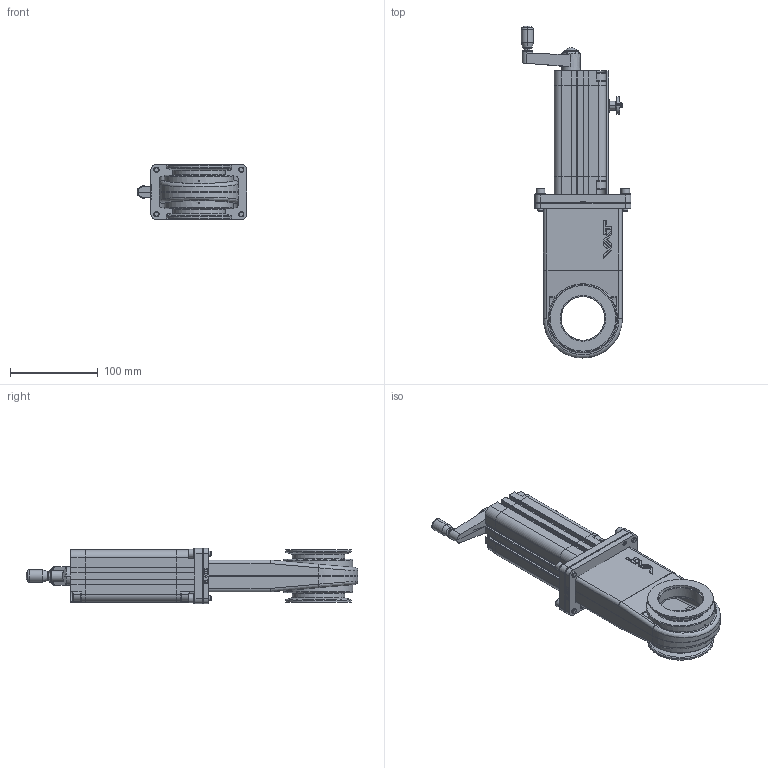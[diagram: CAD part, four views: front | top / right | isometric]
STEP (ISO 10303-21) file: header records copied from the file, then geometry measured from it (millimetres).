
FILE_DESCRIPTION(/* description */ (''),/* implementation_level */ '2;1');
FILE_NAME(/* name */ '1192294207_203.stp',/* time_stamp */ '2013-09-10T11:48:16+02:00',/* author */ (''),/* organization */ (''),/* preprocessor_version */ 'ST-DEVELOPER v11',/* originating_system */ 'SIEMENS PLM Software NX 7.5',/* authorisation */ '');
FILE_SCHEMA (('AP203_CONFIGURATION_CONTROLLED_3D_DESIGN_OF_MECHANICAL_PARTS_AND_ASSEMBLIES_MIM_LF'));
Length unit declared in the file: millimetre
Products named in the file (20): 350540.2_20486ID; 350482.2; 350432.7; 351562.6; 401443; N-6092-118.1; 350553.3; 401446; 332680.2; 259432.1; n-6195-408; 301646.1; 260826.1; 260722.6; 356291.4; 259597.1; 218189; n-6134-408; 356581.2; 396418
Assembly tree (31 placements, depth 3):
  396418
    n-6134-408  x4
    218189  x4
    259597.1  x4
    356291.4
    260722.6
    260826.1
    301646.1
    n-6195-408
    259432.1
    332680.2
    401446
    350553.3
    N-6092-118.1  x2
    401443
    351562.6  x2
    350432.7  x2
    350482.2
    356581.2
      350540.2_20486ID
Bounding box: 125.25 x 379.21 x 63 mm (x, y, z)
Volume: 547637.5 mm3; surface area: 259713.7 mm2
Topology: 38 solids, 38 shells, 1261 faces, 3295 edges, 2168 vertices
Faces by surface type: plane 695, cylinder 329, revolution 90, cone 59, extrusion 44, bspline 24, sphere 12, torus 8
Full cylindrical faces by diameter (mm): 2.2 x1, 3.17 x1, 4 x2, 4.96 x4, 4.976 x2, 4.985 x1, 5 x12, 5.2 x2, 5.22 x4, 5.3 x1, 6 x8, 6.4 x4, 6.5 x11, 8.4 x4, 10 x4, 11 x6, 11.5 x4, 14 x1, 15 x1, 15.2 x1, 16 x1, 16.2 x1, 22 x1, 23 x1, 25.345 x1, 30 x1, 30.011 x1, 40 x2, 50 x2, 50.3 x2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
Entity records: 34650 total; most frequent: CARTESIAN_POINT 7446, ORIENTED_EDGE 4850, DIRECTION 4543, EDGE_CURVE 2425, VERTEX_POINT 1683, AXIS2_PLACEMENT_3D 1531, VECTOR 1433, LINE 1389
